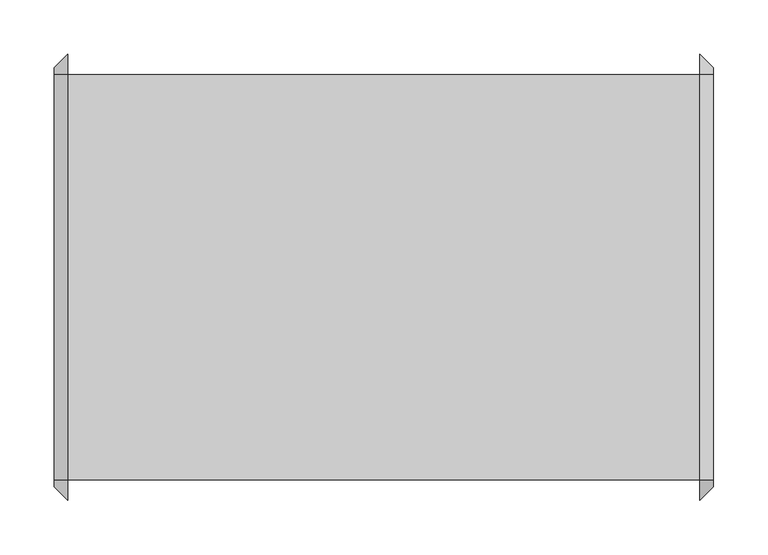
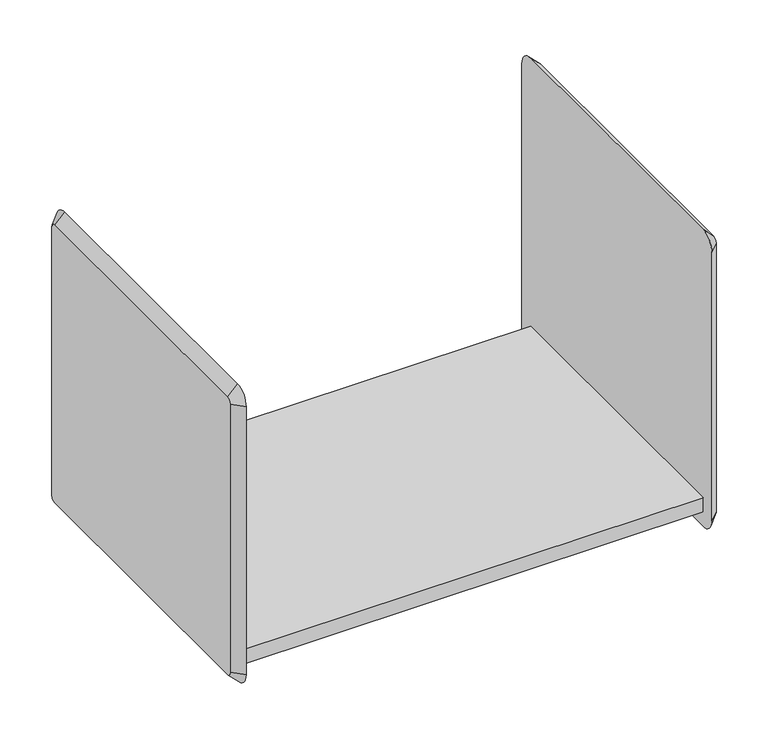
"""IFC4 building model written with IfcOpenShell, lengths in millimetres: furniture geometry, HermanMiller_ActionOffice_A3210_B-StyleShelf : 15-1/2H 16D 24W."""

from ifc_helpers import new_model, si_unit, frame, origin, place, context, project, spatial, polyline, circle_curve, outline, extrude, source, transform, mapped, element, save
from ifc_brep_helpers import plane_surface, revolved_surface, advanced_brep


def furniture_3418a519(model_context):
    return source(origin(), model_context, "Body", "SolidModel", [
        extrude(outline(polyline([(168.1579955, 200.025), (168.1579955, 196.85), (-416.0420045, 196.85), (-416.0420045, 200.025), (168.1579955, 200.025)])), frame((0.0, 0.0, 1657.3152313), z_axis=(0.0, 0.0, 1.0), x_axis=(1.0, 0.0, 0.0)), (0.0, 0.0, 1.0), 15.9097687),
        extrude(outline(polyline([(-174.625, 1676.4), (200.025, 1676.4), (200.025, 1673.225), (-171.45, 1673.225), (-171.45, 1657.3152313), (-174.625, 1657.3152313), (-174.625, 1676.4)])), frame((-416.0420045, 0.0, 0.0), z_axis=(1.0, 0.0, 0.0), x_axis=(0.0, 1.0, 0.0)), (0.0, 0.0, 1.0), 584.2),
        advanced_brep(
        [(180.8579955, 200.025, 2019.3), (180.8579955, -174.625, 2019.3), (180.8579955, -180.975, 2012.95), (180.8579955, -180.975, 1657.35), (180.8579955, -174.625, 1651.0), (180.8579955, 200.025, 1651.0), (180.8579955, 206.375, 1657.35), (180.8579955, 206.375, 2012.95), (168.1579955, 200.025, 2032.0), (168.1579955, 219.075, 2012.95), (168.1579955, 219.075, 1657.35), (168.1579955, 200.025, 1638.3), (168.1579955, -174.625, 1638.3), (168.1579955, -193.675, 1657.35), (168.1579955, -193.675, 2012.95), (168.1579955, -174.625, 2032.0)],
        [
            (0, 1),
            (1, 2, circle_curve(frame((180.8579955, -174.625, 2012.95), z_axis=(1.0, 0.0, 0.0), x_axis=(0.0, 0.0, 1.0)), 6.35)),
            (2, 3),
            (3, 4, circle_curve(frame((180.8579955, -174.625, 1657.35), z_axis=(1.0, 0.0, 0.0), x_axis=(0.0, -1.0, 0.0)), 6.35)),
            (4, 5),
            (5, 6, circle_curve(frame((180.8579955, 200.025, 1657.35), z_axis=(1.0, 0.0, 0.0), x_axis=(0.0, 0.0, -1.0)), 6.35)),
            (6, 7),
            (7, 0, circle_curve(frame((180.8579955, 200.025, 2012.95), z_axis=(1.0, 0.0, 0.0), x_axis=(0.0, 1.0, 0.0)), 6.35)),
            (8, 9, circle_curve(frame((168.1579955, 200.025, 2012.95), z_axis=(-1.0, 0.0, 0.0), x_axis=(0.0, 1.0, 0.0)), 19.05)),
            (9, 10),
            (10, 11, circle_curve(frame((168.1579955, 200.025, 1657.35), z_axis=(-1.0, 0.0, 0.0), x_axis=(0.0, 0.0, -1.0)), 19.05)),
            (11, 12),
            (12, 13, circle_curve(frame((168.1579955, -174.625, 1657.35), z_axis=(-1.0, 0.0, 0.0), x_axis=(0.0, -1.0, 0.0)), 19.05)),
            (13, 14),
            (14, 15, circle_curve(frame((168.1579955, -174.625, 2012.95), z_axis=(-1.0, 0.0, 0.0), x_axis=(0.0, 0.0, 1.0)), 19.05)),
            (15, 8),
            (15, 1),
            (0, 8),
            (14, 2),
            (13, 3),
            (12, 4),
            (11, 5),
            (10, 6),
            (9, 7),
        ],
        [
            plane_surface(frame((180.8579955, 12.7, 1835.15), z_axis=(1.0, 0.0, 0.0), x_axis=(0.0, -1.0, 0.0))),
            plane_surface(frame((168.1579955, 12.7, 1835.15), z_axis=(-1.0, 0.0, 0.0), x_axis=(0.0, -1.0, 0.0))),
            plane_surface(frame((168.1579955, 12.7, 2032.0), z_axis=(0.7071067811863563, 0.0, 0.7071067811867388), x_axis=(0.0, -1.0, 0.0))),
            revolved_surface(polyline([(180.8579955, -174.625, 2019.3), (168.1579955, -174.625, 2032.0)]), (187.2079955, -174.625, 2012.95), (-1.0, 0.0, 0.0)),
            plane_surface(frame((168.1579955, -193.675, 1835.15), z_axis=(0.7071067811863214, -0.7071067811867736, 0.0), x_axis=(0.0, 0.0, -1.0))),
            revolved_surface(polyline([(180.8579955, -180.97500000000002, 1657.35), (168.1579955, -193.675, 1657.35)]), (187.2079955, -174.625, 1657.35), (-1.0, 0.0, 0.0)),
            plane_surface(frame((168.1579955, 12.7, 1638.3), z_axis=(0.707106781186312, 0.0, -0.707106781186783), x_axis=(0.0, 1.0, 0.0))),
            revolved_surface(polyline([(180.8579955, 200.025, 1651.0), (168.1579955, 200.025, 1638.3)]), (187.2079955, 200.025, 1657.35), (-1.0, 0.0, 0.0)),
            plane_surface(frame((168.1579955, 219.075, 1835.15), z_axis=(0.7071067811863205, 0.7071067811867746, 0.0), x_axis=(0.0, 0.0, 1.0))),
            revolved_surface(polyline([(180.8579955, 206.37500000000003, 2012.95), (168.1579955, 219.075, 2012.95)]), (187.2079955, 200.025, 2012.95), (-1.0, 0.0, 0.0)),
        ],
        [
            (0, [[1, 2, 3, 4, 5, 6, 7, 8]]),
            (1, [[9, 10, 11, 12, 13, 14, 15, 16]]),
            (2, [[-16, 17, -1, 18]]),
            (3, [[-15, 19, -2, -17]]),
            (4, [[-14, 20, -3, -19]]),
            (5, [[-13, 21, -4, -20]]),
            (6, [[-12, 22, -5, -21]]),
            (7, [[-11, 23, -6, -22]]),
            (8, [[-10, 24, -7, -23]]),
            (9, [[-9, -18, -8, -24]]),
        ],
    ),
        advanced_brep(
        [(-428.7420045, -174.625, 2019.3), (-428.7420045, 200.025, 2019.3), (-428.7420045, 206.375, 2012.95), (-428.7420045, 206.375, 1657.35), (-428.7420045, 200.025, 1651.0), (-428.7420045, -174.625, 1651.0), (-428.7420045, -180.975, 1657.35), (-428.7420045, -180.975, 2012.95), (-416.0420045, -174.625, 2032.0), (-416.0420045, -193.675, 2012.95), (-416.0420045, -193.675, 1657.35), (-416.0420045, -174.625, 1638.3), (-416.0420045, 200.025, 1638.3), (-416.0420045, 219.075, 1657.35), (-416.0420045, 219.075, 2012.95), (-416.0420045, 200.025, 2032.0)],
        [
            (0, 1),
            (1, 2, circle_curve(frame((-428.7420045, 200.025, 2012.95), z_axis=(-1.0, -1.8838264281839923e-12, -1.790567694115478e-12), x_axis=(-1.7905334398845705e-12, 0.0, 1.0)), 6.35)),
            (2, 3),
            (3, 4, circle_curve(frame((-428.7420045, 200.025, 1657.35), z_axis=(-1.0, 0.0, 0.0), x_axis=(0.0, 1.0, 0.0)), 6.35)),
            (4, 5),
            (5, 6, circle_curve(frame((-428.7420045, -174.625, 1657.35), z_axis=(-1.0, 0.0, 0.0), x_axis=(0.0, 0.0, -1.0)), 6.35)),
            (6, 7),
            (7, 0, circle_curve(frame((-428.7420045, -174.625, 2012.95), z_axis=(-1.0, -1.875832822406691e-12, 1.9610979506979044e-12), x_axis=(1.8757894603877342e-12, -1.0, 0.0)), 6.35)),
            (8, 9, circle_curve(frame((-416.0420045, -174.625, 2012.95), z_axis=(1.0, 1.875832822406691e-12, -1.9610979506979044e-12), x_axis=(1.8757894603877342e-12, -1.0, 0.0)), 19.05)),
            (9, 10),
            (10, 11, circle_curve(frame((-416.0420045, -174.625, 1657.35), z_axis=(1.0, 0.0, 0.0), x_axis=(0.0, 0.0, -1.0)), 19.05)),
            (11, 12),
            (12, 13, circle_curve(frame((-416.0420045, 200.025, 1657.35), z_axis=(1.0, 0.0, 0.0), x_axis=(0.0, 1.0, 0.0)), 19.05)),
            (13, 14),
            (14, 15, circle_curve(frame((-416.0420045, 200.025, 2012.95), z_axis=(1.0, 1.8838264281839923e-12, 1.790567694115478e-12), x_axis=(-1.7905334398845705e-12, 0.0, 1.0)), 19.05)),
            (15, 8),
            (15, 1),
            (0, 8),
            (14, 2),
            (13, 3),
            (12, 4),
            (11, 5),
            (10, 6),
            (9, 7),
        ],
        [
            plane_surface(frame((-428.7420045, 12.7, 1835.15), z_axis=(-1.0, 0.0, 0.0), x_axis=(0.0, -1.0, 0.0))),
            plane_surface(frame((-416.0420045, 12.7, 1835.15), z_axis=(1.0, 0.0, 0.0), x_axis=(0.0, -1.0, 0.0))),
            plane_surface(frame((-416.0420045, 12.7, 2032.0), z_axis=(-0.7071067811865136, 0.0, 0.7071067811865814), x_axis=(0.0, 1.0, 0.0))),
            revolved_surface(polyline([(-428.7420045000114, 200.025, 2019.2999999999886), (-416.04200449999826, 200.025, 2032.0000000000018)]), (-435.0920045, 200.025, 2012.95), (1.0, 1.8838264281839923e-12, 1.790567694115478e-12)),
            plane_surface(frame((-416.0420045, 219.075, 1835.15), z_axis=(-0.7071067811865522, 0.7071067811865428, 0.0), x_axis=(0.0, 0.0, -1.0))),
            revolved_surface(polyline([(-428.7420045, 206.37499999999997, 1657.35), (-416.0420045, 219.075, 1657.35)]), (-435.0920045, 200.025, 1657.35), (1.0, 0.0, 0.0)),
            plane_surface(frame((-416.0420045, 12.7, 1638.3), z_axis=(-0.7071067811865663, 0.0, -0.7071067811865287), x_axis=(0.0, -1.0, 0.0))),
            revolved_surface(polyline([(-428.7420045, -174.625, 1651.0), (-416.0420045, -174.625, 1638.3)]), (-435.0920045, -174.625, 1657.35), (1.0, 0.0, 0.0)),
            plane_surface(frame((-416.0420045, -193.675, 1835.15), z_axis=(-0.7071067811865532, -0.7071067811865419, 0.0), x_axis=(0.0, 0.0, 1.0))),
            revolved_surface(polyline([(-428.7420045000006, -180.97499999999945, 2012.95), (-416.04200449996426, -193.67500000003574, 2012.95)]), (-435.0920045, -174.625, 2012.95), (1.0, 1.875832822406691e-12, -1.9610979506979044e-12)),
        ],
        [
            (0, [[1, 2, 3, 4, 5, 6, 7, 8]]),
            (1, [[9, 10, 11, 12, 13, 14, 15, 16]]),
            (2, [[-16, 17, -1, 18]]),
            (3, [[-15, 19, -2, -17]]),
            (4, [[-14, 20, -3, -19]]),
            (5, [[-13, 21, -4, -20]]),
            (6, [[-12, 22, -5, -21]]),
            (7, [[-11, 23, -6, -22]]),
            (8, [[-10, 24, -7, -23]]),
            (9, [[-9, -18, -8, -24]]),
        ],
    ),
    ])


if __name__ == "__main__":
    model = new_model("IFC4")
    model_context = context("Model", 3, world=origin())
    ifc_project = project(units=[si_unit("LENGTHUNIT", "METRE", prefix="MILLI")], contexts=[model_context])
    site = spatial("IfcSite", under=ifc_project)
    building = spatial("IfcBuilding", under=site)
    placement = place(None, origin())
    furniture_shape = furniture_3418a519(model_context)
    element("IfcFurniture", 1, ObjectType="HermanMiller_ActionOffice_A3210_B-StyleShelf : 15-1/2H 16D 24W", at=placement, inside=building, context=model_context, shape_type="MappedRepresentation", body=[
        mapped(furniture_shape, transform((0.0, 0.0, 0.0), x_axis=(1.0, 0.0, 0.0), y_axis=(0.0, 1.0, 0.0), z_axis=(0.0, 0.0, 1.0))),
    ])
    save(model, "model.ifc")
